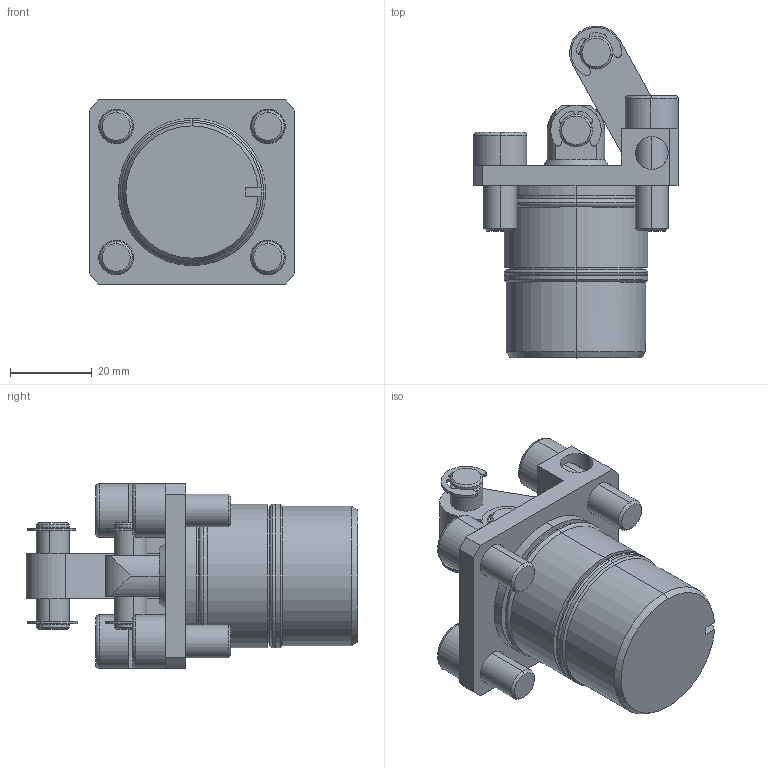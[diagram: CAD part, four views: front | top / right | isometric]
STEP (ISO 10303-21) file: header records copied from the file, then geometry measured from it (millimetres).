
FILE_DESCRIPTION (( 'STEP AP214' ), '1' );
FILE_NAME ('ITLC28-001.STEP', '2017-03-20T13:31:01', ( '' ), ( '' ), 'SwSTEP 2.0', 'SolidWorks 2014', '' );
FILE_SCHEMA (( 'AUTOMOTIVE_DESIGN' ));
Length unit declared in the file: millimetre
Products named in the file (11): sicherungsscheibe_din6799_6; Zylinderkopfschraube DIN 912 - 8.8-Neu_DIN 912 M8 x 25; DIN 6799 D4; 1008005; O-Ring-NBR_3032001 (32x1,5); O-Ring-NBR_3032001 (32x2); 2011001; 1028001; 1064001; ITLC28-001; Zylinderkopfschraube DIN 912 - 8.8-Neu_DIN 912 M8 x 16
Assembly tree (17 placements, depth 2):
  ITLC28-001
    1064001
    1028001
    2011001
    O-Ring-NBR_3032001 (32x2)
    O-Ring-NBR_3032001 (32x1,5)
    1008005  x3
    DIN 6799 D4
    Zylinderkopfschraube DIN 912 - 8.8-Neu_DIN 912 M8 x 25  x2
    sicherungsscheibe_din6799_6  x4
    Zylinderkopfschraube DIN 912 - 8.8-Neu_DIN 912 M8 x 16  x2
Bounding box: 50 x 81 x 45 mm (x, y, z)
Volume: 68505.7 mm3; surface area: 28936.1 mm2
Topology: 17 solids, 17 shells, 435 faces, 1035 edges, 644 vertices
Faces by surface type: cylinder 196, plane 152, torus 52, cone 35
Entity records: 8880 total; most frequent: CARTESIAN_POINT 1948, DIRECTION 1460, ORIENTED_EDGE 1246, EDGE_CURVE 623, AXIS2_PLACEMENT_3D 592, VERTEX_POINT 386, CIRCLE 309, EDGE_LOOP 295
